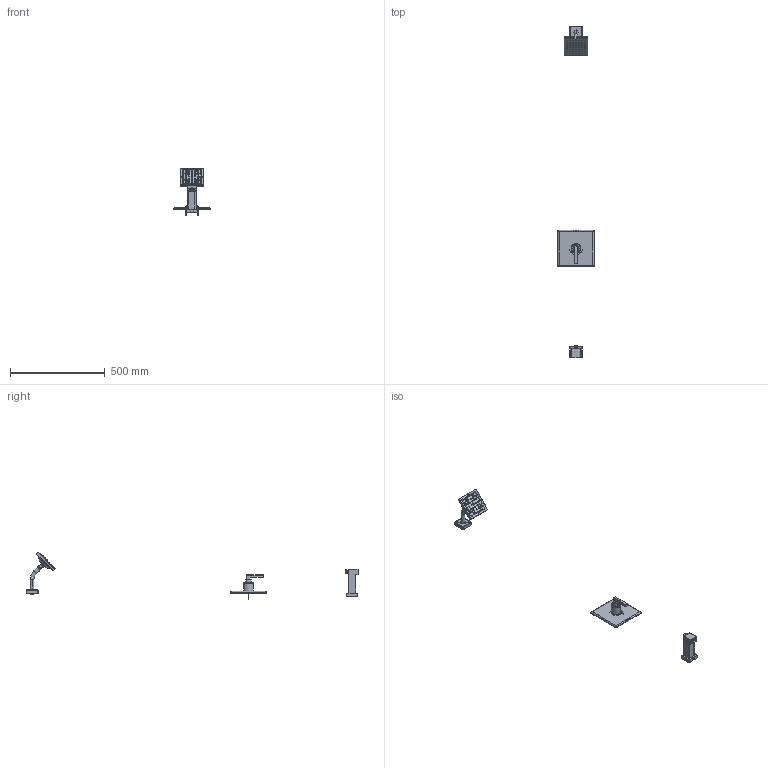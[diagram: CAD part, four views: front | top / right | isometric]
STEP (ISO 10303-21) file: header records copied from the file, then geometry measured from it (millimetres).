
FILE_DESCRIPTION (( 'STEP AP214' ), '1' );
FILE_NAME ('3692TRM.STEP', '2025-01-15T10:49:51', ( '' ), ( '' ), 'SwSTEP 2.0', 'SolidWorks 2023', '' );
FILE_SCHEMA (( 'AUTOMOTIVE_DESIGN' ));
Products named in the file (1): 3692TRM
Bounding box: 190.5 x 1753.56 x 251.95 mm (x, y, z)
Surface area: 284012.4 mm2 (no closed solid volume)
Topology: 0 solids, 137 shells, 863 faces, 3219 edges, 2403 vertices
Faces by surface type: plane 302, cylinder 274, cone 158, bspline 103, torus 24, sphere 2
Entity records: 61200 total; most frequent: CARTESIAN_POINT 36111, DIRECTION 4748, ORIENTED_EDGE 4606, EDGE_CURVE 3206, VERTEX_POINT 2400, AXIS2_PLACEMENT_3D 1714, VECTOR 1320, LINE 1320
